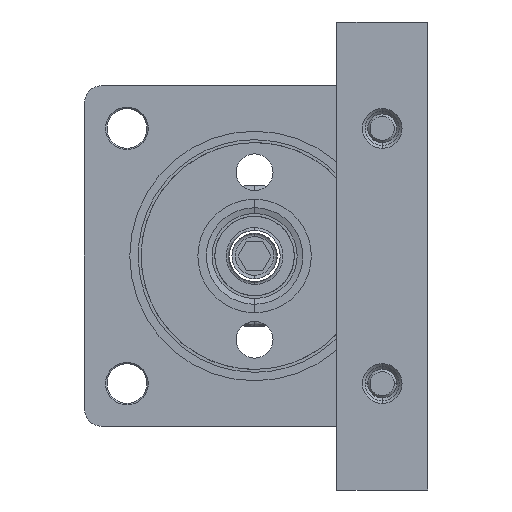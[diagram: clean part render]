
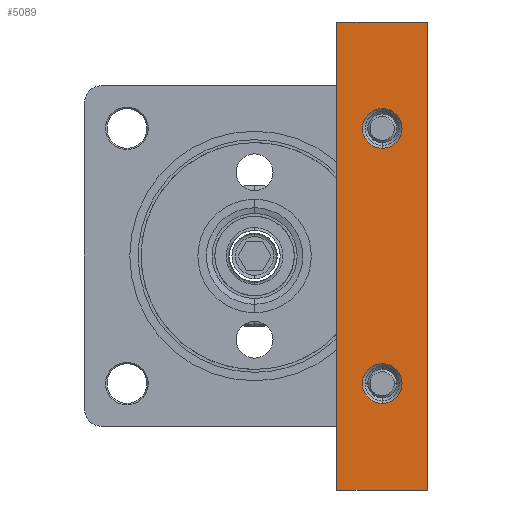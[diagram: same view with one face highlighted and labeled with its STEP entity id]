
A CAD part, left-side view. The second image highlights one B-rep face of the part: STEP entity #5089.
In plain terms, the highlighted planar face has unit normal (-1, 0, 0).
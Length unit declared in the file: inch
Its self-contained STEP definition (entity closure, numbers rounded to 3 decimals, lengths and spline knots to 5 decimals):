
#179 = CIRCLE ( 'NONE', #13146, 0.27559 ) ;
#381 = AXIS2_PLACEMENT_3D ( 'NONE', #1908, #8183, #3237 ) ;
#556 = CARTESIAN_POINT ( 'NONE',  ( -2.1063, -2.40157, -3.24803 ) ) ;
#561 = CARTESIAN_POINT ( 'NONE',  ( -2.1063, -1.77165, 1.49606 ) ) ;
#609 = EDGE_CURVE ( 'NONE', #8934, #13093, #1619, .T. ) ;
#850 = ORIENTED_EDGE ( 'NONE', *, *, #10997, .F. ) ;
#853 = ORIENTED_EDGE ( 'NONE', *, *, #9724, .T. ) ;
#938 = ORIENTED_EDGE ( 'NONE', *, *, #609, .F. ) ;
#1619 = CIRCLE ( 'NONE', #8451, 0.27559 ) ;
#1628 = VERTEX_POINT ( 'NONE', #4403 ) ;
#1908 = CARTESIAN_POINT ( 'NONE',  ( -2.1063, -2.40157, 3.24803 ) ) ;
#2732 = DIRECTION ( 'NONE',  ( 0., -1., 0. ) ) ;
#2896 = LINE ( 'NONE', #10288, #3019 ) ;
#2908 = CARTESIAN_POINT ( 'NONE',  ( -2.1063, -1.14173, -3.24803 ) ) ;
#2983 = CIRCLE ( 'NONE', #4757, 0.27559 ) ;
#3019 = VECTOR ( 'NONE', #10509, 39.37008 ) ;
#3237 = DIRECTION ( 'NONE',  ( 0., 0., -1. ) ) ;
#3494 = CARTESIAN_POINT ( 'NONE',  ( -2.1063, -1.77165, -1.77165 ) ) ;
#3507 = DIRECTION ( 'NONE',  ( -1., 0., 0. ) ) ;
#3520 = DIRECTION ( 'NONE',  ( 0., 0., 1. ) ) ;
#3765 = VECTOR ( 'NONE', #8785, 39.37008 ) ;
#4266 = CARTESIAN_POINT ( 'NONE',  ( -2.1063, -1.77165, -1.77165 ) ) ;
#4288 = EDGE_CURVE ( 'NONE', #4741, #12441, #7714, .T. ) ;
#4394 = LINE ( 'NONE', #8810, #3765 ) ;
#4403 = CARTESIAN_POINT ( 'NONE',  ( -2.1063, -1.14173, 3.24803 ) ) ;
#4741 = VERTEX_POINT ( 'NONE', #11182 ) ;
#4757 = AXIS2_PLACEMENT_3D ( 'NONE', #4266, #11248, #6293 ) ;
#4859 = VERTEX_POINT ( 'NONE', #561 ) ;
#4873 = DIRECTION ( 'NONE',  ( 0., 0., 1. ) ) ;
#4887 = DIRECTION ( 'NONE',  ( -1., 0., 0. ) ) ;
#4889 = CARTESIAN_POINT ( 'NONE',  ( -2.1063, -1.77165, 1.77165 ) ) ;
#5089 = ADVANCED_FACE ( 'NONE', ( #9312, #8998, #9233 ), #10707, .F. ) ;
#5172 = CARTESIAN_POINT ( 'NONE',  ( -2.1063, -1.77165, -1.49606 ) ) ;
#5406 = EDGE_CURVE ( 'NONE', #4859, #9815, #10039, .T. ) ;
#5981 = ORIENTED_EDGE ( 'NONE', *, *, #8481, .F. ) ;
#6188 = ORIENTED_EDGE ( 'NONE', *, *, #11007, .T. ) ;
#6293 = DIRECTION ( 'NONE',  ( 0., 0., 1. ) ) ;
#6399 = ORIENTED_EDGE ( 'NONE', *, *, #8103, .T. ) ;
#6716 = CARTESIAN_POINT ( 'NONE',  ( -2.1063, -2.40157, 3.24803 ) ) ;
#7013 = EDGE_LOOP ( 'NONE', ( #850, #938 ) ) ;
#7176 = EDGE_LOOP ( 'NONE', ( #6399, #9667, #853, #6188 ) ) ;
#7283 = EDGE_LOOP ( 'NONE', ( #5981, #9514 ) ) ;
#7714 = LINE ( 'NONE', #2908, #7735 ) ;
#7735 = VECTOR ( 'NONE', #2732, 39.37008 ) ;
#8103 = EDGE_CURVE ( 'NONE', #1628, #4741, #4394, .T. ) ;
#8183 = DIRECTION ( 'NONE',  ( 1., 0., 0. ) ) ;
#8451 = AXIS2_PLACEMENT_3D ( 'NONE', #3494, #3507, #3520 ) ;
#8481 = EDGE_CURVE ( 'NONE', #9815, #4859, #179, .T. ) ;
#8539 = AXIS2_PLACEMENT_3D ( 'NONE', #13167, #13150, #13136 ) ;
#8785 = DIRECTION ( 'NONE',  ( 0., 0., -1. ) ) ;
#8810 = CARTESIAN_POINT ( 'NONE',  ( -2.1063, -1.14173, 3.24803 ) ) ;
#8934 = VERTEX_POINT ( 'NONE', #13373 ) ;
#8998 = FACE_BOUND ( 'NONE', #7283, .T. ) ;
#9233 = FACE_BOUND ( 'NONE', #7013, .T. ) ;
#9312 = FACE_OUTER_BOUND ( 'NONE', #7176, .T. ) ;
#9514 = ORIENTED_EDGE ( 'NONE', *, *, #5406, .F. ) ;
#9667 = ORIENTED_EDGE ( 'NONE', *, *, #4288, .T. ) ;
#9724 = EDGE_CURVE ( 'NONE', #12441, #10107, #12392, .T. ) ;
#9815 = VERTEX_POINT ( 'NONE', #13313 ) ;
#10039 = CIRCLE ( 'NONE', #8539, 0.27559 ) ;
#10107 = VERTEX_POINT ( 'NONE', #6716 ) ;
#10288 = CARTESIAN_POINT ( 'NONE',  ( -2.1063, -1.14173, 3.24803 ) ) ;
#10509 = DIRECTION ( 'NONE',  ( 0., 1., 0. ) ) ;
#10707 = PLANE ( 'NONE',  #381 ) ;
#10997 = EDGE_CURVE ( 'NONE', #13093, #8934, #2983, .T. ) ;
#11007 = EDGE_CURVE ( 'NONE', #10107, #1628, #2896, .T. ) ;
#11182 = CARTESIAN_POINT ( 'NONE',  ( -2.1063, -1.14173, -3.24803 ) ) ;
#11248 = DIRECTION ( 'NONE',  ( -1., 0., 0. ) ) ;
#12392 = LINE ( 'NONE', #13953, #12746 ) ;
#12441 = VERTEX_POINT ( 'NONE', #556 ) ;
#12746 = VECTOR ( 'NONE', #13957, 39.37008 ) ;
#13093 = VERTEX_POINT ( 'NONE', #5172 ) ;
#13136 = DIRECTION ( 'NONE',  ( 0., 0., 1. ) ) ;
#13146 = AXIS2_PLACEMENT_3D ( 'NONE', #4889, #4887, #4873 ) ;
#13150 = DIRECTION ( 'NONE',  ( -1., 0., 0. ) ) ;
#13167 = CARTESIAN_POINT ( 'NONE',  ( -2.1063, -1.77165, 1.77165 ) ) ;
#13313 = CARTESIAN_POINT ( 'NONE',  ( -2.1063, -1.77165, 2.04724 ) ) ;
#13373 = CARTESIAN_POINT ( 'NONE',  ( -2.1063, -1.77165, -2.04724 ) ) ;
#13953 = CARTESIAN_POINT ( 'NONE',  ( -2.1063, -2.40157, 3.24803 ) ) ;
#13957 = DIRECTION ( 'NONE',  ( 0., 0., 1. ) ) ;
